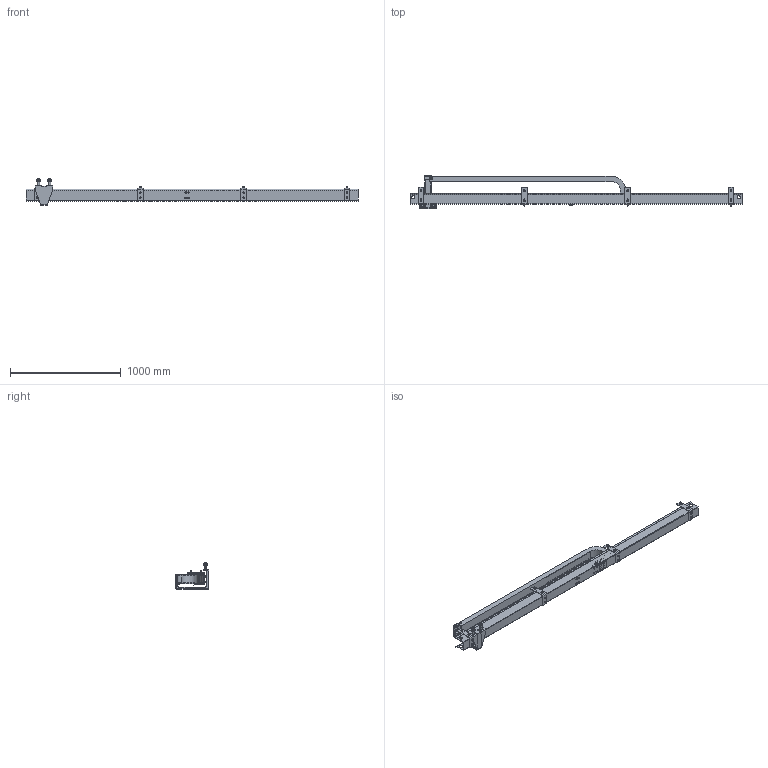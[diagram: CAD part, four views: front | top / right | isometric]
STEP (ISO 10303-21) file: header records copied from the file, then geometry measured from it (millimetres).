
FILE_DESCRIPTION (( 'STEP AP203' ), '1' );
FILE_NAME ('900.040.060.3000.STEP', '2018-02-27T08:27:29', ( '' ), ( '' ), 'SwSTEP 2.0', 'SolidWorks 2016', '' );
FILE_SCHEMA (( 'CONFIG_CONTROL_DESIGN' ));
Length unit declared in the file: millimetre
Products named in the file (20): VITI TE UNI 5739_M20X60 UNI 5739; 084.301.000 VITI ALUSIC_084.301.003; SR435-4000-003; 900.060.100.102; RONDELLE UNI 6592_8.4x17 UNI 6592; SR435-4000-005; SR435MI060100-A435M060K1-3000; DADO ESAGONALE M20 AUTOBLOCCANTE_M20 UNI7473; SR435-4000-002; RONDELLE UNI 6592_6.4x12.5 UNI 6592; DADI ESAGONALI AUTOBLOCCANTI UNI 7473_M6 UNI 7473; 900.060.1000.3000-L; VITI TESTA BOMBATA ISO 730 INOX_M6x20 ISO 7380 INOX; 900.060.100.103_Default<A macchina>; 084.301.000 VITI ALUSIC_084.301.001; 084.302.000 DADI ALUSIC 13x13-1_084.302.009; 900.040.060.3000; SR435-4000-004; 084.301.000 VITI ALUSIC_084.301.011; SR435-3000-001
Assembly tree (104 placements, depth 3):
  900.040.060.3000
    SR435MI060100-A435M060K1-3000
      SR435-3000-001
      SR435-4000-002
      SR435-4000-003
      SR435-4000-004
      SR435-4000-005
    900.060.100.102  x4
    900.060.100.103_Default<A macchina>
    RONDELLE UNI 6592_8.4x17 UNI 6592  x8
    084.301.000 VITI ALUSIC_084.301.003  x8
    084.302.000 DADI ALUSIC 13x13-1_084.302.009  x8
    VITI TESTA BOMBATA ISO 730 INOX_M6x20 ISO 7380 INOX  x8
    RONDELLE UNI 6592_6.4x12.5 UNI 6592  x32
    DADI ESAGONALI AUTOBLOCCANTI UNI 7473_M6 UNI 7473  x16
    084.301.000 VITI ALUSIC_084.301.011  x4
    084.301.000 VITI ALUSIC_084.301.001  x4
    VITI TE UNI 5739_M20X60 UNI 5739  x2
    DADO ESAGONALE M20 AUTOBLOCCANTE_M20 UNI7473  x2
    900.060.1000.3000-L
Bounding box: 3000 x 301.1 x 238 mm (x, y, z)
Volume: 5616599.4 mm3; surface area: 3050595 mm2
Topology: 113 solids, 113 shells, 3196 faces, 7963 edges, 5080 vertices
Faces by surface type: plane 1484, cylinder 1177, cone 338, torus 116, bspline 71, sphere 10
Entity records: 68512 total; most frequent: CARTESIAN_POINT 15958, ORIENTED_EDGE 10152, DIRECTION 10127, EDGE_CURVE 5076, AXIS2_PLACEMENT_3D 3600, VERTEX_POINT 3297, LINE 2927, VECTOR 2927
